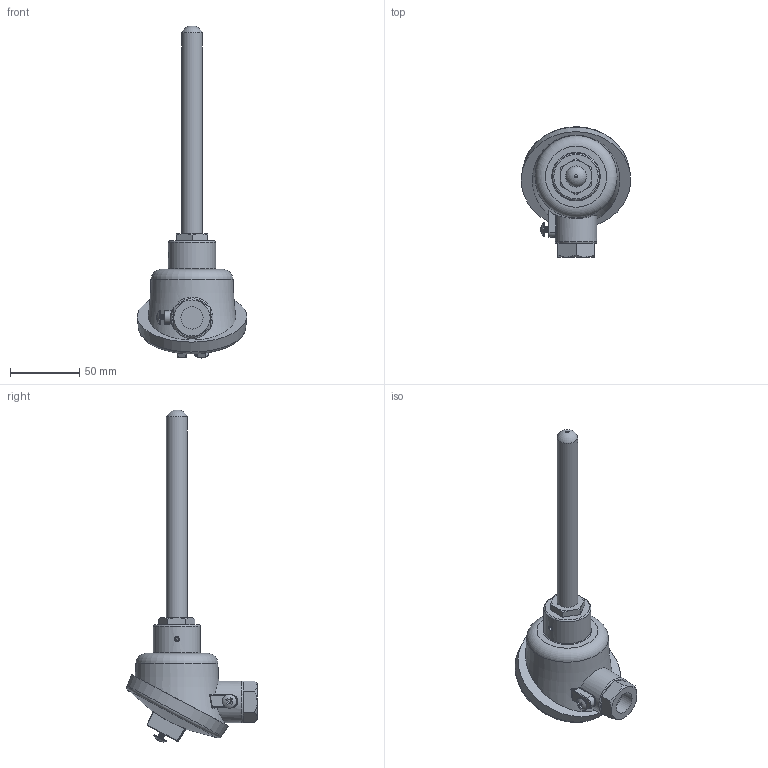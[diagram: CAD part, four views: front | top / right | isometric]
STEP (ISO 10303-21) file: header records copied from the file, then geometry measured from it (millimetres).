
FILE_DESCRIPTION (( 'STEP AP203' ), '1' );
FILE_NAME ('YIT35-7(0).STEP', '2025-03-19T08:19:48', ( '' ), ( '' ), 'SwSTEP 2.0', 'SolidWorks 2021', '' );
FILE_SCHEMA (( 'CONFIG_CONTROL_DESIGN' ));
Length unit declared in the file: millimetre
Products named in the file (1): YIT35-7(0)
Bounding box: 78.98 x 94.09 x 239.52 mm (x, y, z)
Volume: 223916.3 mm3; surface area: 32606.3 mm2
Topology: 1 solids, 2 shells, 195 faces, 477 edges, 296 vertices
Faces by surface type: plane 86, cylinder 47, bspline 24, cone 18, torus 12, sphere 8
Full cylindrical faces by diameter (mm): 3.5 x4, 3.6 x1, 3.8 x10, 10 x2, 15 x1, 16 x1, 18.6 x1, 20.5 x1, 30 x1, 34 x1
Entity records: 8334 total; most frequent: CARTESIAN_POINT 4581, ORIENTED_EDGE 768, DIRECTION 692, EDGE_CURVE 384, AXIS2_PLACEMENT_3D 269, VERTEX_POINT 247, EDGE_LOOP 223, FACE_OUTER_BOUND 202
